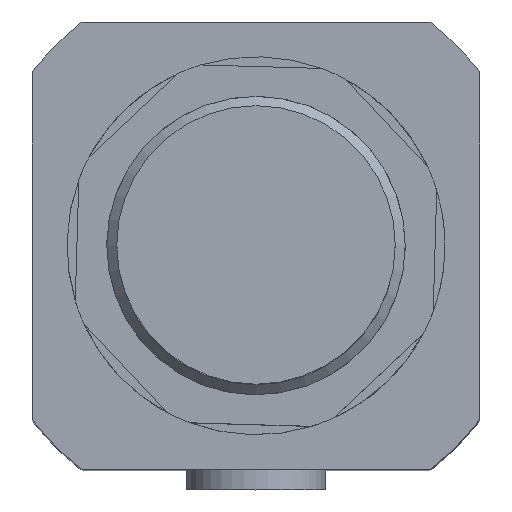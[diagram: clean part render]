
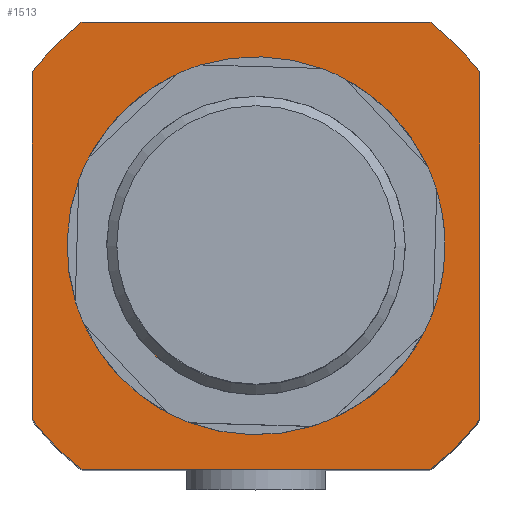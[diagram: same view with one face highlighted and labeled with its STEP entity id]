
A CAD part, top view. The second image highlights one B-rep face of the part: STEP entity #1513.
In plain terms, the highlighted planar face has unit normal (0, 0, 1).
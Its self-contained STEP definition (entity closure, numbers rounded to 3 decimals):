
#51=FACE_BOUND('',#308,.T.);
#134=PLANE('',#1770);
#208=FACE_OUTER_BOUND('',#307,.T.);
#307=EDGE_LOOP('',(#1219,#1220,#1221,#1222,#1223,#1224,#1225,#1226));
#308=EDGE_LOOP('',(#1227,#1228));
#364=LINE('',#2527,#447);
#367=LINE('',#2533,#450);
#378=LINE('',#2602,#461);
#380=LINE('',#2610,#463);
#447=VECTOR('',#2027,10.);
#450=VECTOR('',#2032,10.);
#461=VECTOR('',#2113,10.);
#463=VECTOR('',#2125,10.);
#568=CIRCLE('',#1730,28.5);
#569=CIRCLE('',#1732,28.5);
#572=CIRCLE('',#1736,15.);
#573=CIRCLE('',#1737,15.);
#590=CIRCLE('',#1765,28.5);
#591=CIRCLE('',#1767,28.5);
#687=VERTEX_POINT('',#2524);
#688=VERTEX_POINT('',#2526);
#689=VERTEX_POINT('',#2530);
#690=VERTEX_POINT('',#2532);
#691=VERTEX_POINT('',#2536);
#692=VERTEX_POINT('',#2540);
#693=VERTEX_POINT('',#2542);
#696=VERTEX_POINT('',#2550);
#697=VERTEX_POINT('',#2552);
#714=VERTEX_POINT('',#2606);
#859=EDGE_CURVE('',#687,#688,#364,.T.);
#862=EDGE_CURVE('',#689,#690,#367,.T.);
#865=EDGE_CURVE('',#691,#689,#568,.T.);
#867=EDGE_CURVE('',#692,#693,#569,.T.);
#872=EDGE_CURVE('',#697,#696,#572,.T.);
#873=EDGE_CURVE('',#696,#697,#573,.T.);
#895=EDGE_CURVE('',#693,#691,#378,.T.);
#896=EDGE_CURVE('',#690,#687,#590,.T.);
#897=EDGE_CURVE('',#688,#714,#591,.T.);
#899=EDGE_CURVE('',#714,#692,#380,.T.);
#1219=ORIENTED_EDGE('',*,*,#867,.F.);
#1220=ORIENTED_EDGE('',*,*,#899,.F.);
#1221=ORIENTED_EDGE('',*,*,#897,.F.);
#1222=ORIENTED_EDGE('',*,*,#859,.F.);
#1223=ORIENTED_EDGE('',*,*,#896,.F.);
#1224=ORIENTED_EDGE('',*,*,#862,.F.);
#1225=ORIENTED_EDGE('',*,*,#865,.F.);
#1226=ORIENTED_EDGE('',*,*,#895,.F.);
#1227=ORIENTED_EDGE('',*,*,#872,.T.);
#1228=ORIENTED_EDGE('',*,*,#873,.T.);
#1513=ADVANCED_FACE('',(#208,#51),#134,.T.);
#1730=AXIS2_PLACEMENT_3D('',#2538,#2037,#2038);
#1732=AXIS2_PLACEMENT_3D('',#2543,#2042,#2043);
#1736=AXIS2_PLACEMENT_3D('',#2553,#2052,#2053);
#1737=AXIS2_PLACEMENT_3D('',#2554,#2054,#2055);
#1765=AXIS2_PLACEMENT_3D('',#2604,#2116,#2117);
#1767=AXIS2_PLACEMENT_3D('',#2607,#2120,#2121);
#1770=AXIS2_PLACEMENT_3D('',#2612,#2128,#2129);
#2027=DIRECTION('',(0.,-1.,0.));
#2032=DIRECTION('',(1.,0.,0.));
#2037=DIRECTION('center_axis',(0.,0.,-1.));
#2038=DIRECTION('ref_axis',(-0.614,0.789,0.));
#2042=DIRECTION('center_axis',(0.,0.,-1.));
#2043=DIRECTION('ref_axis',(-0.789,-0.614,0.));
#2052=DIRECTION('center_axis',(0.,0.,-1.));
#2053=DIRECTION('ref_axis',(1.,0.,0.));
#2054=DIRECTION('center_axis',(0.,0.,-1.));
#2055=DIRECTION('ref_axis',(1.,0.,0.));
#2113=DIRECTION('',(0.,1.,0.));
#2116=DIRECTION('center_axis',(0.,0.,-1.));
#2117=DIRECTION('ref_axis',(0.789,0.614,0.));
#2120=DIRECTION('center_axis',(0.,0.,-1.));
#2121=DIRECTION('ref_axis',(0.614,-0.789,0.));
#2125=DIRECTION('',(-1.,0.,0.));
#2128=DIRECTION('center_axis',(0.,0.,1.));
#2129=DIRECTION('ref_axis',(1.,0.,0.));
#2524=CARTESIAN_POINT('',(22.5,17.493,74.3));
#2526=CARTESIAN_POINT('',(22.5,-17.493,74.3));
#2527=CARTESIAN_POINT('',(22.5,-17.493,74.3));
#2530=CARTESIAN_POINT('',(-17.493,22.5,74.3));
#2532=CARTESIAN_POINT('',(17.493,22.5,74.3));
#2533=CARTESIAN_POINT('',(17.493,22.5,74.3));
#2536=CARTESIAN_POINT('',(-22.5,17.493,74.3));
#2538=CARTESIAN_POINT('Origin',(0.,0.,74.3));
#2540=CARTESIAN_POINT('',(-17.493,-22.5,74.3));
#2542=CARTESIAN_POINT('',(-22.5,-17.493,74.3));
#2543=CARTESIAN_POINT('Origin',(0.,0.,74.3));
#2550=CARTESIAN_POINT('',(-15.,0.,74.3));
#2552=CARTESIAN_POINT('',(15.,0.,74.3));
#2553=CARTESIAN_POINT('Origin',(0.,0.,74.3));
#2554=CARTESIAN_POINT('Origin',(0.,0.,74.3));
#2602=CARTESIAN_POINT('',(-22.5,17.493,74.3));
#2604=CARTESIAN_POINT('Origin',(0.,0.,74.3));
#2606=CARTESIAN_POINT('',(17.493,-22.5,74.3));
#2607=CARTESIAN_POINT('Origin',(0.,0.,74.3));
#2610=CARTESIAN_POINT('',(-17.493,-22.5,74.3));
#2612=CARTESIAN_POINT('Origin',(0.,0.,
74.3));
